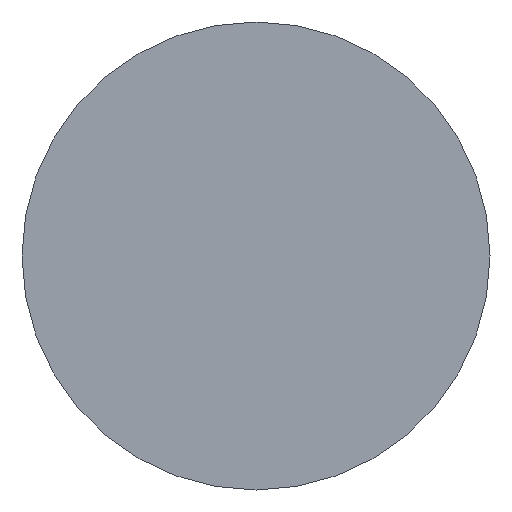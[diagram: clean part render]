
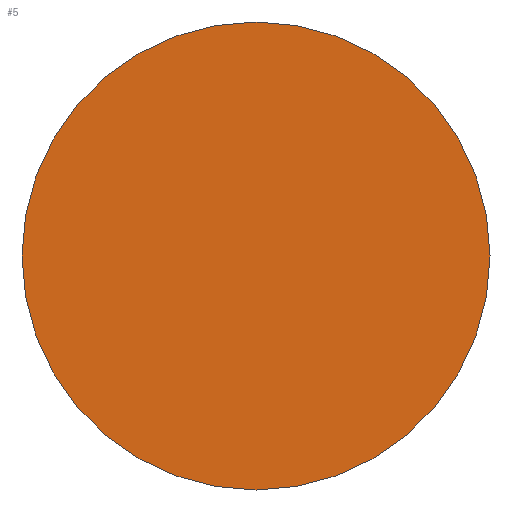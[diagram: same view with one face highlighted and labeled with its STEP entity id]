
A CAD part, left-side view. The second image highlights one B-rep face of the part: STEP entity #5.
In plain terms, the highlighted planar face has unit normal (-1, 0, 0).
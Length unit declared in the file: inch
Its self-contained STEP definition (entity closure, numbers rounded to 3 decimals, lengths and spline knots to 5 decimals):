
#5 = ADVANCED_FACE ( 'NONE', ( #315 ), #249, .T. ) ;
#83 = EDGE_CURVE ( 'NONE', #392, #413, #502, .T. ) ;
#86 = EDGE_CURVE ( 'NONE', #413, #392, #501, .T. ) ;
#108 = DIRECTION ( 'NONE',  ( 0., 0., -1. ) ) ;
#110 = DIRECTION ( 'NONE',  ( 1., 0., 0. ) ) ;
#128 = AXIS2_PLACEMENT_3D ( 'NONE', #193, #110, #108 ) ;
#131 = AXIS2_PLACEMENT_3D ( 'NONE', #190, #200, #192 ) ;
#163 = AXIS2_PLACEMENT_3D ( 'NONE', #267, #266, #263 ) ;
#190 = CARTESIAN_POINT ( 'NONE',  ( -0.52, 0., 0. ) ) ;
#192 = DIRECTION ( 'NONE',  ( 0., 0., -1. ) ) ;
#193 = CARTESIAN_POINT ( 'NONE',  ( -0.52, 0., 0. ) ) ;
#200 = DIRECTION ( 'NONE',  ( 1., 0., 0. ) ) ;
#203 = CARTESIAN_POINT ( 'NONE',  ( -0.52, 0., -0.625 ) ) ;
#249 = PLANE ( 'NONE',  #163 ) ;
#263 = DIRECTION ( 'NONE',  ( 0., 0., 1. ) ) ;
#266 = DIRECTION ( 'NONE',  ( -1., 0., 0. ) ) ;
#267 = CARTESIAN_POINT ( 'NONE',  ( -0.52, 0.625, 0. ) ) ;
#279 = EDGE_LOOP ( 'NONE', ( #362, #360 ) ) ;
#315 = FACE_OUTER_BOUND ( 'NONE', #279, .T. ) ;
#360 = ORIENTED_EDGE ( 'NONE', *, *, #86, .F. ) ;
#362 = ORIENTED_EDGE ( 'NONE', *, *, #83, .F. ) ;
#392 = VERTEX_POINT ( 'NONE', #203 ) ;
#413 = VERTEX_POINT ( 'NONE', #506 ) ;
#501 = CIRCLE ( 'NONE', #128, 0.625 ) ;
#502 = CIRCLE ( 'NONE', #131, 0.625 ) ;
#506 = CARTESIAN_POINT ( 'NONE',  ( -0.52, 0., 0.625 ) ) ;
